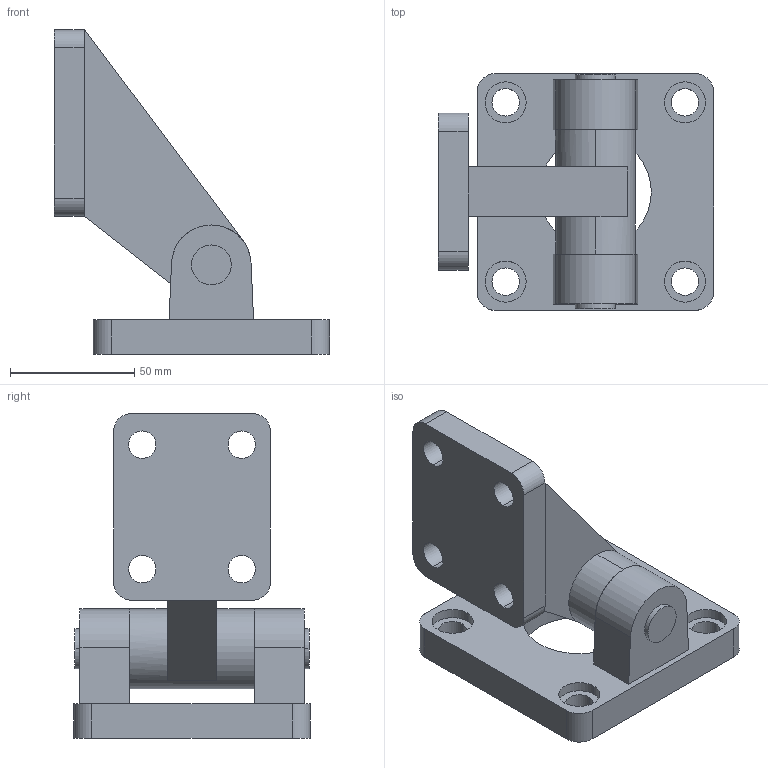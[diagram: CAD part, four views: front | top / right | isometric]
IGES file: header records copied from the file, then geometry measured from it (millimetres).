
Global section: file name: No Iges File Name specified; native system: AutoDesk Inventor R11.0; preprocessor: AutoDesk Inventor Iges Exporter R11.0; author: No Author specified; organization: No Organization specified; date: 20060712.122421; units: millimetre
Bounding box: 110.5 x 95 x 130.5 mm (x, y, z)
Volume: 288839.6 mm3; surface area: 60824.8 mm2
Topology: 2 solids, 2 shells, 79 faces, 199 edges, 132 vertices
Faces by surface type: bspline 32, plane 29, cylinder 18
